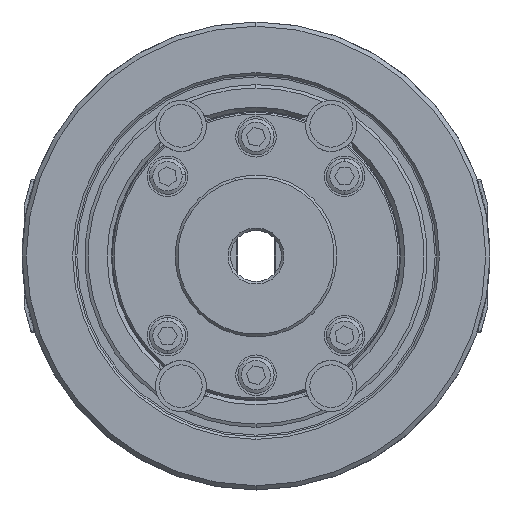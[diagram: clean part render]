
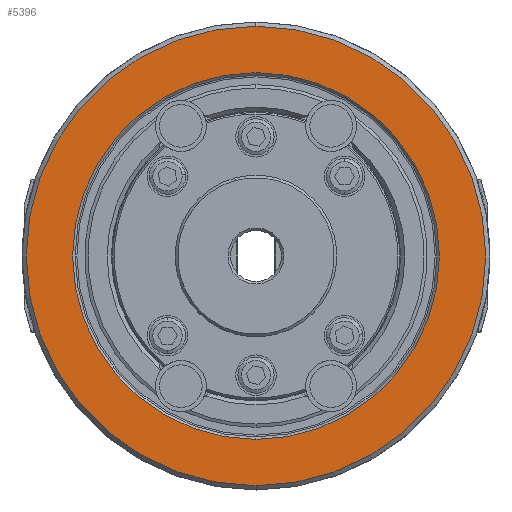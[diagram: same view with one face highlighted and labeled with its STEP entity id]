
A CAD part, left-side view. The second image highlights one B-rep face of the part: STEP entity #5396.
In plain terms, the highlighted planar face has unit normal (-1, 0, 0).
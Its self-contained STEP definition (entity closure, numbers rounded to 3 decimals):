
#3520 = AXIS2_PLACEMENT_3D ( 'NONE', #55569, #25255, #60676 ) ;
#5350 = AXIS2_PLACEMENT_3D ( 'NONE', #9117, #44401, #14195 ) ;
#5396 = ADVANCED_FACE ( 'NONE', ( #65251, #26512 ), #10710, .T. ) ;
#7386 = AXIS2_PLACEMENT_3D ( 'NONE', #50204, #19955, #55310 ) ;
#7880 = VERTEX_POINT ( 'NONE', #15234 ) ;
#9117 = CARTESIAN_POINT ( 'NONE',  ( -59., 0., 0. ) ) ;
#9357 = ORIENTED_EDGE ( 'NONE', *, *, #38361, .T. ) ;
#10710 = PLANE ( 'NONE',  #37894 ) ;
#13741 = ORIENTED_EDGE ( 'NONE', *, *, #14828, .T. ) ;
#14195 = DIRECTION ( 'NONE',  ( 0., 0., -1. ) ) ;
#14828 = EDGE_CURVE ( 'NONE', #46540, #7880, #44073, .T. ) ;
#15210 = VERTEX_POINT ( 'NONE', #52529 ) ;
#15234 = CARTESIAN_POINT ( 'NONE',  ( -59., 0., -43.1 ) ) ;
#15774 = DIRECTION ( 'NONE',  ( 0., 0., 1. ) ) ;
#19035 = CARTESIAN_POINT ( 'NONE',  ( -59., 0., 0. ) ) ;
#19955 = DIRECTION ( 'NONE',  ( 1., 0., 0. ) ) ;
#20373 = ORIENTED_EDGE ( 'NONE', *, *, #49423, .F. ) ;
#23564 = AXIS2_PLACEMENT_3D ( 'NONE', #19035, #54379, #24085 ) ;
#24085 = DIRECTION ( 'NONE',  ( 0., 0., -1. ) ) ;
#24374 = EDGE_LOOP ( 'NONE', ( #20373, #38481 ) ) ;
#25255 = DIRECTION ( 'NONE',  ( 1., 0., 0. ) ) ;
#26512 = FACE_OUTER_BOUND ( 'NONE', #24374, .T. ) ;
#29539 = CIRCLE ( 'NONE', #23564, 54. ) ;
#36528 = CARTESIAN_POINT ( 'NONE',  ( -59., 0., -54. ) ) ;
#37358 = CARTESIAN_POINT ( 'NONE',  ( -59., 0., 43.1 ) ) ;
#37894 = AXIS2_PLACEMENT_3D ( 'NONE', #45783, #46010, #15774 ) ;
#38361 = EDGE_CURVE ( 'NONE', #7880, #46540, #43858, .T. ) ;
#38481 = ORIENTED_EDGE ( 'NONE', *, *, #39659, .F. ) ;
#39659 = EDGE_CURVE ( 'NONE', #15210, #62200, #49303, .T. ) ;
#43858 = CIRCLE ( 'NONE', #3520, 43.1 ) ;
#44073 = CIRCLE ( 'NONE', #5350, 43.1 ) ;
#44401 = DIRECTION ( 'NONE',  ( 1., 0., 0. ) ) ;
#45783 = CARTESIAN_POINT ( 'NONE',  ( -59., 0., -54. ) ) ;
#46010 = DIRECTION ( 'NONE',  ( -1., 0., 0. ) ) ;
#46540 = VERTEX_POINT ( 'NONE', #37358 ) ;
#49303 = CIRCLE ( 'NONE', #7386, 54. ) ;
#49423 = EDGE_CURVE ( 'NONE', #62200, #15210, #29539, .T. ) ;
#50204 = CARTESIAN_POINT ( 'NONE',  ( -59., 0., 0. ) ) ;
#52529 = CARTESIAN_POINT ( 'NONE',  ( -59., 0., 54. ) ) ;
#54379 = DIRECTION ( 'NONE',  ( 1., 0., 0. ) ) ;
#55310 = DIRECTION ( 'NONE',  ( 0., 0., -1. ) ) ;
#55569 = CARTESIAN_POINT ( 'NONE',  ( -59., 0., 0. ) ) ;
#60676 = DIRECTION ( 'NONE',  ( 0., 0., -1. ) ) ;
#61922 = EDGE_LOOP ( 'NONE', ( #13741, #9357 ) ) ;
#62200 = VERTEX_POINT ( 'NONE', #36528 ) ;
#65251 = FACE_BOUND ( 'NONE', #61922, .T. ) ;
